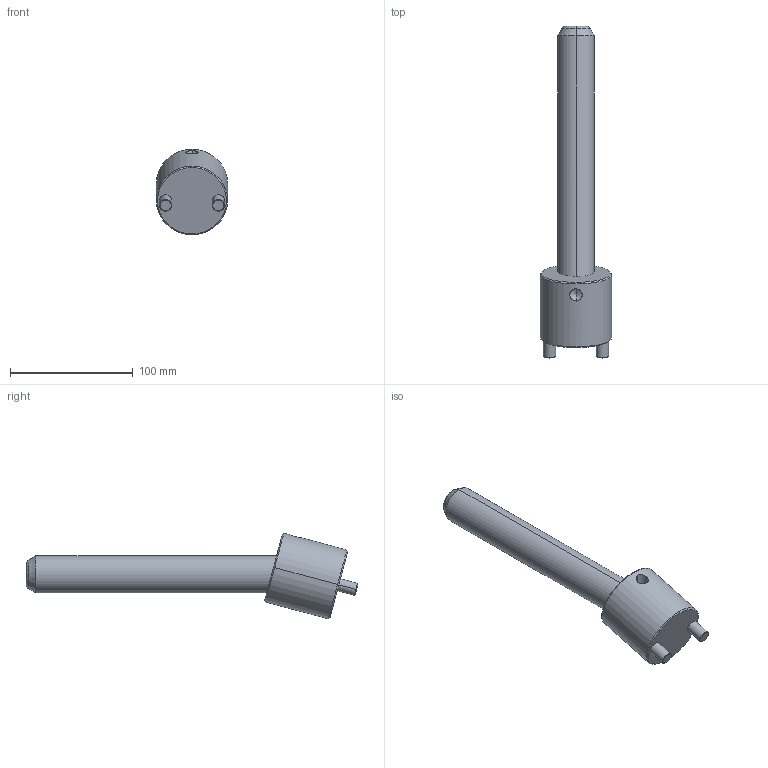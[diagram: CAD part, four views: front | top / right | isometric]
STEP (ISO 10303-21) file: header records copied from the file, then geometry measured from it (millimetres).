
FILE_DESCRIPTION(('CATIA V5 STEP Exchange'),'2;1');
FILE_NAME('C:\Users\Raffaele\Desktop\3D BOLEX\3D FILES CF BOLEX\19-INCLINED ASSEMBLY REF_CI\CI1530200.stp','2019-06-24T07:41:16+00:00',('none'),('none'),'CATIA Version 5 Release 20 GA (IN-10)','CATIA V5 STEP AP203','none');
FILE_SCHEMA(('CONFIG_CONTROL_DESIGN'));
Length unit declared in the file: millimetre
Products named in the file (1): CI1530200
Assembly tree (2 placements, depth 2):
  CI1530200
    #58
    #584
Bounding box: 58 x 270.33 x 69.74 mm (x, y, z)
Volume: 285062.2 mm3; surface area: 44929 mm2
Topology: 2 solids, 2 shells, 39 faces, 82 edges, 47 vertices
Faces by surface type: cone 14, cylinder 14, plane 7, torus 4
Entity records: 1542 total; most frequent: CARTESIAN_POINT 679, ORIENTED_EDGE 160, DIRECTION 147, EDGE_CURVE 80, AXIS2_PLACEMENT_3D 74, VERTEX_POINT 47, EDGE_LOOP 43, ADVANCED_FACE 39
